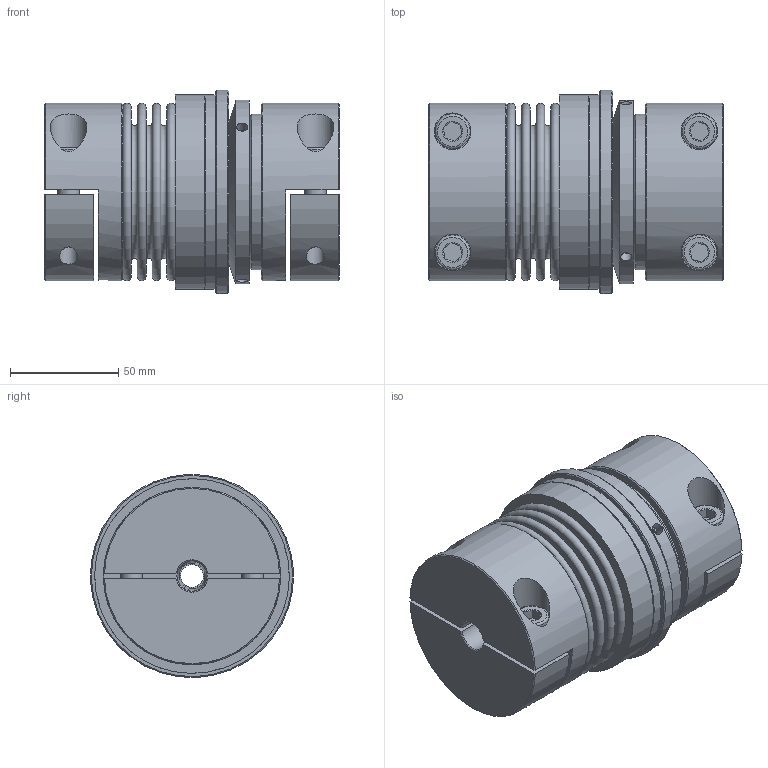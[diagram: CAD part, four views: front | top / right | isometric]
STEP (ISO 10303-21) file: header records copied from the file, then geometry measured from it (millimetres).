
FILE_DESCRIPTION( ( 'KBE1/14 - N7H8 - N14H7 - 98 Sh' ), '1' );
FILE_NAME( 'K:/Konstruktion/Fertigungszeichnungen/Überlastkupplung/KBK-B/KBK-BHH/80-150/KBK-BHH-150-136.stp', '14.12.2015', ( 'KBK-Antriebstechnik' ), ( 'KBK-Antriebstechnik' ), 'PSStep 16.0.42', 'Solid Edge St6', ' ' );
FILE_SCHEMA( ( 'AUTOMOTIVE_DESIGN { 1 0 10303 214 1 1 1 1 }' ) );
Length unit declared in the file: millimetre
Products named in the file (21): Flansch 80_0_1; Flansch BK150; a_40_0_1; KB4H8-150-oa4; KN4H-150-oa2; Spreiznabe KB8-150-oa3; Stellring 80_0_1; KBK L-P-80 Grundkörper_0_1-oa1; KBK L-P-80 Grundkörper_0_1-oa0; Druckring 80_0_1; KBK-B-H-150-oa5; 61808; ISO EN DIN 4762 M10x30; Assem1; KN4H-150-oa6; BK80-150_Standard_3
Assembly tree (23 placements, depth 4):
  Assem1
    KN4H-150-oa6
    KN4H-150-oa6
    BK80-150_Standard_3
    ISO EN DIN 4762 M10x30  x2
    KBK-B-H-150-oa5
      61808
      ISO EN DIN 4762 M10x30  x2
      KBK L-P-80 Grundkörper_0_1-oa1
        KBK L-P-80 Grundkörper_0_1-oa0
      Stellring 80_0_1
        Stellring 80_0_1
      Druckring 80_0_1
        Druckring 80_0_1
      Flansch 80_0_1
        Flansch BK150
      a_40_0_1
        a_40_0_1
      KB4H8-150-oa4
        KN4H-150-oa2
        KN4H-150-oa2
        Spreiznabe KB8-150-oa3
Bounding box: 136.1 x 93.92 x 93.92 mm (x, y, z)
Volume: 551689.3 mm3; surface area: 204128.3 mm2
Topology: 16 solids, 16 shells, 317 faces, 652 edges, 416 vertices
Faces by surface type: plane 133, cylinder 93, cone 63, torus 28
Full cylindrical faces by diameter (mm): 2.5 x2, 3.242 x3, 5 x4, 5.2 x3, 8.376 x4, 8.5 x6, 9 x4, 10 x8, 10.5 x5, 14 x2, 16 x4, 17 x4, 18 x1, 35 x1, 37.5 x1, 40 x3, 48 x1, 52 x2, 62 x2, 64 x1, 70 x1, 70.5 x1, 70.7 x2, 71.9 x3, 72.1 x2, 82 x2, 85 x1, 87 x1, 90 x2, 94 x1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
Entity records: 8534 total; most frequent: CARTESIAN_POINT 2043, DIRECTION 1094, ORIENTED_EDGE 720, AXIS2_PLACEMENT_3D 501, EDGE_LOOP 438, EDGE_CURVE 360, FACE_OUTER_BOUND 329, VERTEX_POINT 310
